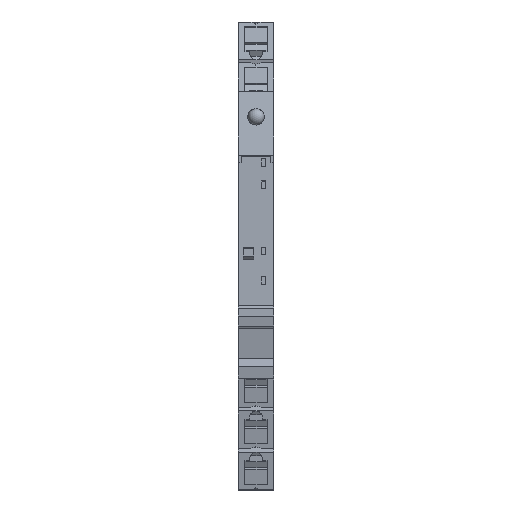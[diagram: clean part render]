
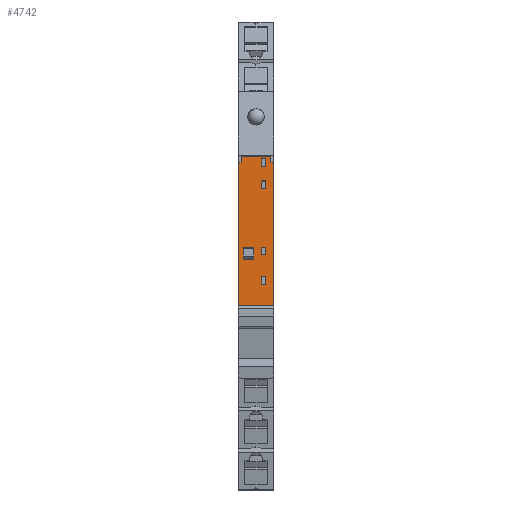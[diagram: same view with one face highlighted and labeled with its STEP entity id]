
A CAD part, top view. The second image highlights one B-rep face of the part: STEP entity #4742.
In plain terms, the highlighted planar face has unit normal (0, 0, 1).
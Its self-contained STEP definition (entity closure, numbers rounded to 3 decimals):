
#2213=CARTESIAN_POINT('',(6.1,55.95,70.7));
#2214=VERTEX_POINT('',#2213);
#2221=CARTESIAN_POINT('',(6.1,29.65,70.7));
#2222=VERTEX_POINT('',#2221);
#2223=CARTESIAN_POINT('',(6.1,55.95,70.7));
#2224=DIRECTION('',(-0.,-1.,0.));
#2225=VECTOR('',#2224,26.3);
#2226=LINE('',#2223,#2225);
#2227=EDGE_CURVE('',#2214,#2222,#2226,.T.);
#3018=CARTESIAN_POINT('',(-0.,29.65,70.7));
#3019=VERTEX_POINT('',#3018);
#3026=CARTESIAN_POINT('',(0.,55.95,70.7));
#3027=VERTEX_POINT('',#3026);
#3028=CARTESIAN_POINT('',(-0.,29.65,70.7));
#3029=DIRECTION('',(0.,1.,-0.));
#3030=VECTOR('',#3029,26.3);
#3031=LINE('',#3028,#3030);
#3032=EDGE_CURVE('',#3019,#3027,#3031,.T.);
#4441=CARTESIAN_POINT('',(5.6,55.95,70.7));
#4442=VERTEX_POINT('',#4441);
#4443=CARTESIAN_POINT('',(5.6,55.95,70.7));
#4444=DIRECTION('',(1.,-0.,-0.));
#4445=VECTOR('',#4444,0.5);
#4446=LINE('',#4443,#4445);
#4447=EDGE_CURVE('',#4442,#2214,#4446,.T.);
#4460=CARTESIAN_POINT('',(5.3,52.544,70.7));
#4461=DIRECTION('',(0.,0.,1.));
#4462=DIRECTION('',(0.,1.,-0.));
#4463=AXIS2_PLACEMENT_3D('',#4460,#4461,#4462);
#4464=PLANE('',#4463);
#4465=CARTESIAN_POINT('',(0.5,56.95,70.7));
#4466=VERTEX_POINT('',#4465);
#4467=CARTESIAN_POINT('',(5.6,56.95,70.7));
#4468=VERTEX_POINT('',#4467);
#4469=CARTESIAN_POINT('',(0.5,56.95,70.7));
#4470=DIRECTION('',(1.,-0.,-0.));
#4471=VECTOR('',#4470,5.1);
#4472=LINE('',#4469,#4471);
#4473=EDGE_CURVE('',#4466,#4468,#4472,.T.);
#4474=ORIENTED_EDGE('',*,*,#4473,.F.);
#4475=CARTESIAN_POINT('',(0.5,55.95,70.7));
#4476=VERTEX_POINT('',#4475);
#4477=CARTESIAN_POINT('',(0.5,55.95,70.7));
#4478=DIRECTION('',(0.,1.,-0.));
#4479=VECTOR('',#4478,1.);
#4480=LINE('',#4477,#4479);
#4481=EDGE_CURVE('',#4476,#4466,#4480,.T.);
#4482=ORIENTED_EDGE('',*,*,#4481,.F.);
#4483=CARTESIAN_POINT('',(0.,55.95,70.7));
#4484=DIRECTION('',(1.,-0.,-0.));
#4485=VECTOR('',#4484,0.5);
#4486=LINE('',#4483,#4485);
#4487=EDGE_CURVE('',#3027,#4476,#4486,.T.);
#4488=ORIENTED_EDGE('',*,*,#4487,.F.);
#4489=ORIENTED_EDGE('',*,*,#3032,.F.);
#4490=CARTESIAN_POINT('',(0.5,29.65,70.7));
#4491=VERTEX_POINT('',#4490);
#4492=CARTESIAN_POINT('',(0.5,29.65,70.7));
#4493=DIRECTION('',(-1.,0.,0.));
#4494=VECTOR('',#4493,0.5);
#4495=LINE('',#4492,#4494);
#4496=EDGE_CURVE('',#4491,#3019,#4495,.T.);
#4497=ORIENTED_EDGE('',*,*,#4496,.F.);
#4498=CARTESIAN_POINT('',(0.5,28.65,70.7));
#4499=VERTEX_POINT('',#4498);
#4500=CARTESIAN_POINT('',(0.5,29.65,70.7));
#4501=DIRECTION('',(-0.,-1.,0.));
#4502=VECTOR('',#4501,1.);
#4503=LINE('',#4500,#4502);
#4504=EDGE_CURVE('',#4491,#4499,#4503,.T.);
#4505=ORIENTED_EDGE('',*,*,#4504,.T.);
#4506=CARTESIAN_POINT('',(5.6,28.65,70.7));
#4507=VERTEX_POINT('',#4506);
#4508=CARTESIAN_POINT('',(5.6,28.65,70.7));
#4509=DIRECTION('',(-1.,0.,0.));
#4510=VECTOR('',#4509,5.1);
#4511=LINE('',#4508,#4510);
#4512=EDGE_CURVE('',#4507,#4499,#4511,.T.);
#4513=ORIENTED_EDGE('',*,*,#4512,.F.);
#4514=CARTESIAN_POINT('',(5.6,29.65,70.7));
#4515=VERTEX_POINT('',#4514);
#4516=CARTESIAN_POINT('',(5.6,29.65,70.7));
#4517=DIRECTION('',(-0.,-1.,0.));
#4518=VECTOR('',#4517,1.);
#4519=LINE('',#4516,#4518);
#4520=EDGE_CURVE('',#4515,#4507,#4519,.T.);
#4521=ORIENTED_EDGE('',*,*,#4520,.F.);
#4522=CARTESIAN_POINT('',(6.1,29.65,70.7));
#4523=DIRECTION('',(-1.,0.,0.));
#4524=VECTOR('',#4523,0.5);
#4525=LINE('',#4522,#4524);
#4526=EDGE_CURVE('',#2222,#4515,#4525,.T.);
#4527=ORIENTED_EDGE('',*,*,#4526,.F.);
#4528=ORIENTED_EDGE('',*,*,#2227,.F.);
#4529=ORIENTED_EDGE('',*,*,#4447,.F.);
#4530=CARTESIAN_POINT('',(5.6,56.95,70.7));
#4531=DIRECTION('',(-0.,-1.,0.));
#4532=VECTOR('',#4531,1.);
#4533=LINE('',#4530,#4532);
#4534=EDGE_CURVE('',#4468,#4442,#4533,.T.);
#4535=ORIENTED_EDGE('',*,*,#4534,.F.);
#4536=EDGE_LOOP('',(#4474,#4482,#4488,#4489,#4497,#4505,#4513,#4521,#4527,#4528,#4529,#4535));
#4537=FACE_BOUND('',#4536,.T.);
#4538=CARTESIAN_POINT('',(4.,35.09,70.7));
#4539=VERTEX_POINT('',#4538);
#4540=CARTESIAN_POINT('',(4.,36.39,70.7));
#4541=VERTEX_POINT('',#4540);
#4542=CARTESIAN_POINT('',(4.,35.09,70.7));
#4543=DIRECTION('',(0.,1.,-0.));
#4544=VECTOR('',#4543,1.3);
#4545=LINE('',#4542,#4544);
#4546=EDGE_CURVE('',#4539,#4541,#4545,.T.);
#4547=ORIENTED_EDGE('',*,*,#4546,.T.);
#4548=CARTESIAN_POINT('',(4.7,36.39,70.7));
#4549=VERTEX_POINT('',#4548);
#4550=CARTESIAN_POINT('',(4.,36.39,70.7));
#4551=DIRECTION('',(1.,-0.,-0.));
#4552=VECTOR('',#4551,0.7);
#4553=LINE('',#4550,#4552);
#4554=EDGE_CURVE('',#4541,#4549,#4553,.T.);
#4555=ORIENTED_EDGE('',*,*,#4554,.T.);
#4556=CARTESIAN_POINT('',(4.7,35.09,70.7));
#4557=VERTEX_POINT('',#4556);
#4558=CARTESIAN_POINT('',(4.7,36.39,70.7));
#4559=DIRECTION('',(-0.,-1.,0.));
#4560=VECTOR('',#4559,1.3);
#4561=LINE('',#4558,#4560);
#4562=EDGE_CURVE('',#4549,#4557,#4561,.T.);
#4563=ORIENTED_EDGE('',*,*,#4562,.T.);
#4564=CARTESIAN_POINT('',(4.7,35.09,70.7));
#4565=DIRECTION('',(-1.,0.,0.));
#4566=VECTOR('',#4565,0.7);
#4567=LINE('',#4564,#4566);
#4568=EDGE_CURVE('',#4557,#4539,#4567,.T.);
#4569=ORIENTED_EDGE('',*,*,#4568,.T.);
#4570=EDGE_LOOP('',(#4547,#4555,#4563,#4569));
#4571=FACE_BOUND('',#4570,.T.);
#4572=CARTESIAN_POINT('',(4.,40.15,70.7));
#4573=VERTEX_POINT('',#4572);
#4574=CARTESIAN_POINT('',(4.,41.45,70.7));
#4575=VERTEX_POINT('',#4574);
#4576=CARTESIAN_POINT('',(4.,40.15,70.7));
#4577=DIRECTION('',(0.,1.,-0.));
#4578=VECTOR('',#4577,1.3);
#4579=LINE('',#4576,#4578);
#4580=EDGE_CURVE('',#4573,#4575,#4579,.T.);
#4581=ORIENTED_EDGE('',*,*,#4580,.T.);
#4582=CARTESIAN_POINT('',(4.7,41.45,70.7));
#4583=VERTEX_POINT('',#4582);
#4584=CARTESIAN_POINT('',(4.,41.45,70.7));
#4585=DIRECTION('',(1.,-0.,-0.));
#4586=VECTOR('',#4585,0.7);
#4587=LINE('',#4584,#4586);
#4588=EDGE_CURVE('',#4575,#4583,#4587,.T.);
#4589=ORIENTED_EDGE('',*,*,#4588,.T.);
#4590=CARTESIAN_POINT('',(4.7,40.15,70.7));
#4591=VERTEX_POINT('',#4590);
#4592=CARTESIAN_POINT('',(4.7,41.45,70.7));
#4593=DIRECTION('',(-0.,-1.,0.));
#4594=VECTOR('',#4593,1.3);
#4595=LINE('',#4592,#4594);
#4596=EDGE_CURVE('',#4583,#4591,#4595,.T.);
#4597=ORIENTED_EDGE('',*,*,#4596,.T.);
#4598=CARTESIAN_POINT('',(4.7,40.15,70.7));
#4599=DIRECTION('',(-1.,0.,0.));
#4600=VECTOR('',#4599,0.7);
#4601=LINE('',#4598,#4600);
#4602=EDGE_CURVE('',#4591,#4573,#4601,.T.);
#4603=ORIENTED_EDGE('',*,*,#4602,.T.);
#4604=EDGE_LOOP('',(#4581,#4589,#4597,#4603));
#4605=FACE_BOUND('',#4604,.T.);
#4606=CARTESIAN_POINT('',(4.,31.35,70.7));
#4607=VERTEX_POINT('',#4606);
#4608=CARTESIAN_POINT('',(4.7,31.35,70.7));
#4609=VERTEX_POINT('',#4608);
#4610=CARTESIAN_POINT('',(4.,31.35,70.7));
#4611=DIRECTION('',(1.,-0.,-0.));
#4612=VECTOR('',#4611,0.7);
#4613=LINE('',#4610,#4612);
#4614=EDGE_CURVE('',#4607,#4609,#4613,.T.);
#4615=ORIENTED_EDGE('',*,*,#4614,.T.);
#4616=CARTESIAN_POINT('',(4.7,30.03,70.7));
#4617=VERTEX_POINT('',#4616);
#4618=CARTESIAN_POINT('',(4.7,31.35,70.7));
#4619=DIRECTION('',(-0.,-1.,0.));
#4620=VECTOR('',#4619,1.32);
#4621=LINE('',#4618,#4620);
#4622=EDGE_CURVE('',#4609,#4617,#4621,.T.);
#4623=ORIENTED_EDGE('',*,*,#4622,.T.);
#4624=CARTESIAN_POINT('',(4.,30.03,70.7));
#4625=VERTEX_POINT('',#4624);
#4626=CARTESIAN_POINT('',(4.7,30.03,70.7));
#4627=DIRECTION('',(-1.,0.,0.));
#4628=VECTOR('',#4627,0.7);
#4629=LINE('',#4626,#4628);
#4630=EDGE_CURVE('',#4617,#4625,#4629,.T.);
#4631=ORIENTED_EDGE('',*,*,#4630,.T.);
#4632=CARTESIAN_POINT('',(4.,30.03,70.7));
#4633=DIRECTION('',(0.,1.,-0.));
#4634=VECTOR('',#4633,1.32);
#4635=LINE('',#4632,#4634);
#4636=EDGE_CURVE('',#4625,#4607,#4635,.T.);
#4637=ORIENTED_EDGE('',*,*,#4636,.T.);
#4638=EDGE_LOOP('',(#4615,#4623,#4631,#4637));
#4639=FACE_BOUND('',#4638,.T.);
#4640=CARTESIAN_POINT('',(4.,51.45,70.7));
#4641=VERTEX_POINT('',#4640);
#4642=CARTESIAN_POINT('',(4.,52.75,70.7));
#4643=VERTEX_POINT('',#4642);
#4644=CARTESIAN_POINT('',(4.,51.45,70.7));
#4645=DIRECTION('',(0.,1.,-0.));
#4646=VECTOR('',#4645,1.3);
#4647=LINE('',#4644,#4646);
#4648=EDGE_CURVE('',#4641,#4643,#4647,.T.);
#4649=ORIENTED_EDGE('',*,*,#4648,.T.);
#4650=CARTESIAN_POINT('',(4.7,52.75,70.7));
#4651=VERTEX_POINT('',#4650);
#4652=CARTESIAN_POINT('',(4.,52.75,70.7));
#4653=DIRECTION('',(1.,-0.,-0.));
#4654=VECTOR('',#4653,0.7);
#4655=LINE('',#4652,#4654);
#4656=EDGE_CURVE('',#4643,#4651,#4655,.T.);
#4657=ORIENTED_EDGE('',*,*,#4656,.T.);
#4658=CARTESIAN_POINT('',(4.7,51.45,70.7));
#4659=VERTEX_POINT('',#4658);
#4660=CARTESIAN_POINT('',(4.7,52.75,70.7));
#4661=DIRECTION('',(-0.,-1.,0.));
#4662=VECTOR('',#4661,1.3);
#4663=LINE('',#4660,#4662);
#4664=EDGE_CURVE('',#4651,#4659,#4663,.T.);
#4665=ORIENTED_EDGE('',*,*,#4664,.T.);
#4666=CARTESIAN_POINT('',(4.7,51.45,70.7));
#4667=DIRECTION('',(-1.,0.,0.));
#4668=VECTOR('',#4667,0.7);
#4669=LINE('',#4666,#4668);
#4670=EDGE_CURVE('',#4659,#4641,#4669,.T.);
#4671=ORIENTED_EDGE('',*,*,#4670,.T.);
#4672=EDGE_LOOP('',(#4649,#4657,#4665,#4671));
#4673=FACE_BOUND('',#4672,.T.);
#4674=CARTESIAN_POINT('',(0.9,41.4,70.7));
#4675=VERTEX_POINT('',#4674);
#4676=CARTESIAN_POINT('',(0.9,39.4,70.7));
#4677=VERTEX_POINT('',#4676);
#4678=CARTESIAN_POINT('',(0.9,41.4,70.7));
#4679=DIRECTION('',(-0.,-1.,0.));
#4680=VECTOR('',#4679,2.);
#4681=LINE('',#4678,#4680);
#4682=EDGE_CURVE('',#4675,#4677,#4681,.T.);
#4683=ORIENTED_EDGE('',*,*,#4682,.F.);
#4684=CARTESIAN_POINT('',(2.7,41.4,70.7));
#4685=VERTEX_POINT('',#4684);
#4686=CARTESIAN_POINT('',(0.9,41.4,70.7));
#4687=DIRECTION('',(1.,-0.,-0.));
#4688=VECTOR('',#4687,1.8);
#4689=LINE('',#4686,#4688);
#4690=EDGE_CURVE('',#4675,#4685,#4689,.T.);
#4691=ORIENTED_EDGE('',*,*,#4690,.T.);
#4692=CARTESIAN_POINT('',(2.7,39.4,70.7));
#4693=VERTEX_POINT('',#4692);
#4694=CARTESIAN_POINT('',(2.7,39.4,70.7));
#4695=DIRECTION('',(0.,1.,-0.));
#4696=VECTOR('',#4695,2.);
#4697=LINE('',#4694,#4696);
#4698=EDGE_CURVE('',#4693,#4685,#4697,.T.);
#4699=ORIENTED_EDGE('',*,*,#4698,.F.);
#4700=CARTESIAN_POINT('',(2.7,39.4,70.7));
#4701=DIRECTION('',(-1.,0.,0.));
#4702=VECTOR('',#4701,1.8);
#4703=LINE('',#4700,#4702);
#4704=EDGE_CURVE('',#4693,#4677,#4703,.T.);
#4705=ORIENTED_EDGE('',*,*,#4704,.T.);
#4706=EDGE_LOOP('',(#4683,#4691,#4699,#4705));
#4707=FACE_BOUND('',#4706,.T.);
#4708=CARTESIAN_POINT('',(4.,55.25,70.7));
#4709=VERTEX_POINT('',#4708);
#4710=CARTESIAN_POINT('',(4.,56.55,70.7));
#4711=VERTEX_POINT('',#4710);
#4712=CARTESIAN_POINT('',(4.,55.25,70.7));
#4713=DIRECTION('',(0.,1.,-0.));
#4714=VECTOR('',#4713,1.3);
#4715=LINE('',#4712,#4714);
#4716=EDGE_CURVE('',#4709,#4711,#4715,.T.);
#4717=ORIENTED_EDGE('',*,*,#4716,.T.);
#4718=CARTESIAN_POINT('',(4.7,56.55,70.7));
#4719=VERTEX_POINT('',#4718);
#4720=CARTESIAN_POINT('',(4.,56.55,70.7));
#4721=DIRECTION('',(1.,-0.,-0.));
#4722=VECTOR('',#4721,0.7);
#4723=LINE('',#4720,#4722);
#4724=EDGE_CURVE('',#4711,#4719,#4723,.T.);
#4725=ORIENTED_EDGE('',*,*,#4724,.T.);
#4726=CARTESIAN_POINT('',(4.7,55.25,70.7));
#4727=VERTEX_POINT('',#4726);
#4728=CARTESIAN_POINT('',(4.7,56.55,70.7));
#4729=DIRECTION('',(-0.,-1.,0.));
#4730=VECTOR('',#4729,1.3);
#4731=LINE('',#4728,#4730);
#4732=EDGE_CURVE('',#4719,#4727,#4731,.T.);
#4733=ORIENTED_EDGE('',*,*,#4732,.T.);
#4734=CARTESIAN_POINT('',(4.7,55.25,70.7));
#4735=DIRECTION('',(-1.,0.,0.));
#4736=VECTOR('',#4735,0.7);
#4737=LINE('',#4734,#4736);
#4738=EDGE_CURVE('',#4727,#4709,#4737,.T.);
#4739=ORIENTED_EDGE('',*,*,#4738,.T.);
#4740=EDGE_LOOP('',(#4717,#4725,#4733,#4739));
#4741=FACE_BOUND('',#4740,.T.);
#4742=ADVANCED_FACE('',(#4537,#4571,#4605,#4639,#4673,#4707,#4741),#4464,.T.);
